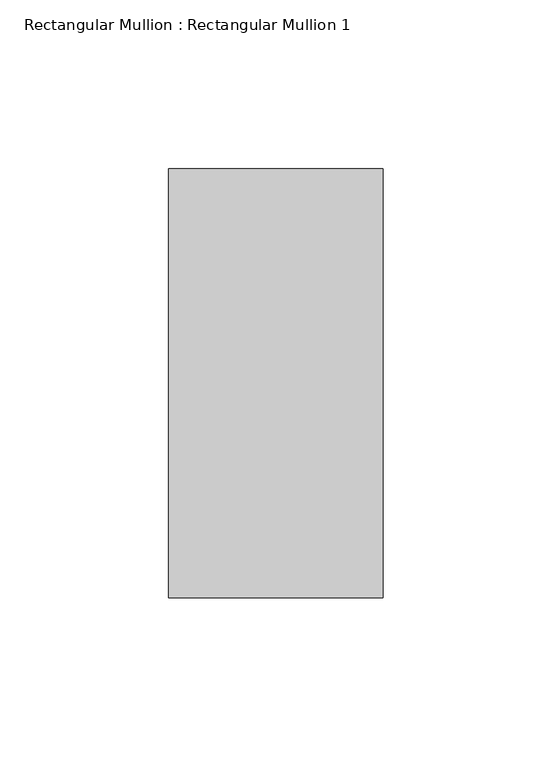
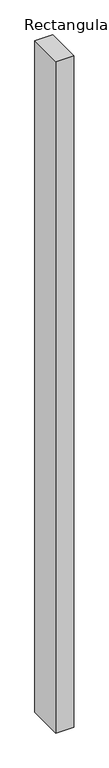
"""IFC4 building model written with IfcOpenShell, lengths in millimetres: member geometry, Rectangular Mullion : Rectangular Mullion 1."""

from ifc_helpers import new_model, si_unit, frame, origin, place, context, project, spatial, polyline, outline, extrude, source, transform, mapped, element, save


def rectangular_mullion_rectangular_mullion_1_fe8f51e2(model_context):
    return source(origin(), model_context, "Body", "SweptSolid", [
        extrude(outline(polyline([(31.75, 63.5), (31.75, -63.5), (-31.75, -63.5), (-31.75, 63.5), (31.75, 63.5)])), frame((0.0, 0.0, -2500.0), z_axis=(0.0, 0.0, 1.0), x_axis=(1.0, 0.0, 0.0)), (0.0, 0.0, 1.0), 2500.0),
    ])


if __name__ == "__main__":
    model = new_model("IFC4")
    model_context = context("Model", 3, world=origin())
    ifc_project = project(units=[si_unit("LENGTHUNIT", "METRE", prefix="MILLI")], contexts=[model_context])
    site = spatial("IfcSite", under=ifc_project)
    building = spatial("IfcBuilding", under=site)
    placement = place(None, origin())
    rectangular_mullion_rectangular_mullion_1_shape = rectangular_mullion_rectangular_mullion_1_fe8f51e2(model_context)
    element("IfcMember", 1, ObjectType="Rectangular Mullion : Rectangular Mullion 1", at=placement, inside=building, context=model_context, shape_type="MappedRepresentation", body=[
        mapped(rectangular_mullion_rectangular_mullion_1_shape, transform((0.0, 0.0, 0.0), x_axis=(1.0, 0.0, 0.0), y_axis=(0.0, 1.0, 0.0), z_axis=(0.0, 0.0, 1.0))),
    ])
    save(model, "model.ifc")
